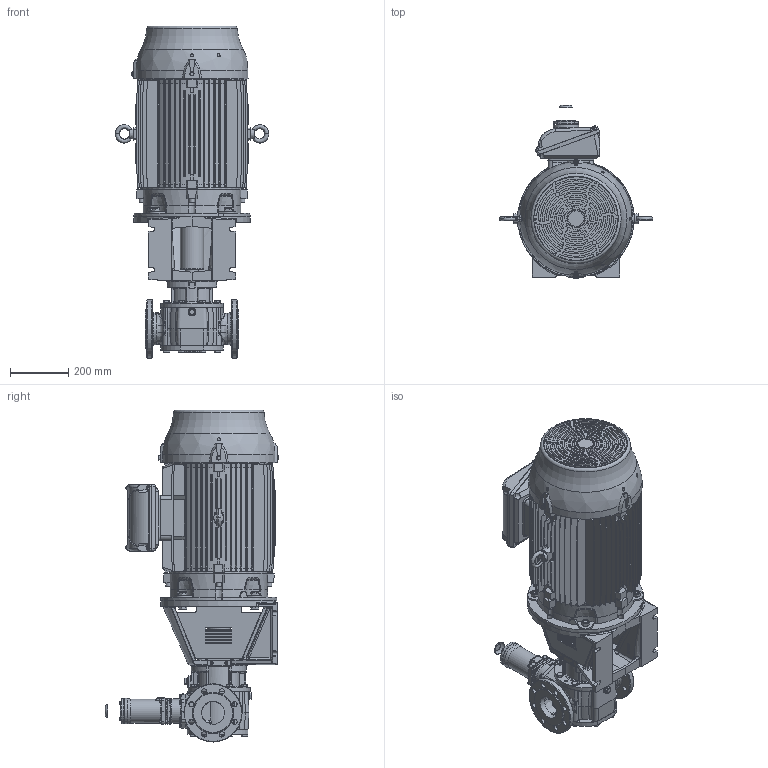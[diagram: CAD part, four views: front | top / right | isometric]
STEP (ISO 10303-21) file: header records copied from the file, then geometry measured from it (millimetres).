
FILE_DESCRIPTION(/* description */ (''),/* implementation_level */ '2;1');
FILE_NAME(/* name */ 'C:\V\JPP\Designs\GEAR PUMPS\PRODUCT ENGINEERING\EUROPE\TG BLOC\TG BLOC_58-80_G2_O_RV1-_200L-STEP.stp',/* time_stamp */ '2021-03-19T10:55:53+01:00',/* author */ ('A77THR'),/* organization */ (''),/* preprocessor_version */ 'ST-DEVELOPER v18.1',/* originating_system */ 'Autodesk Inventor 2020',/* authorisation */ '');
FILE_SCHEMA (('AUTOMOTIVE_DESIGN { 1 0 10303 214 3 1 1 }'));
Length unit declared in the file: millimetre
Products named in the file (1): TG BLOC_58-80_G2_O_RV1-_200L
Bounding box: 527.98 x 597.54 x 1141.26 mm (x, y, z)
Volume: 82222104.9 mm3; surface area: 3447734.8 mm2
Topology: 1 solids, 1 shells, 4584 faces, 12149 edges, 7747 vertices
Faces by surface type: plane 1847, cylinder 1150, bspline 856, cone 553, torus 130, sphere 48
Full cylindrical faces by diameter (mm): 4 x1, 4.5 x4, 4.917 x4, 5.459 x4, 6 x4, 6.3 x1, 6.647 x1, 6.8 x2, 7 x4, 7.323 x12, 7.444 x3, 8 x11, 8.7 x4, 9 x12, 10 x8, 10.106 x7, 10.2 x2, 11.053 x4, 11.4 x12, 11.445 x2, 11.6 x3, 12 x4, 13 x1, 13.157 x2, 13.2 x2, 14 x8, 15.011 x2, 17.2 x20, 18 x23, 19 x6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
Entity records: 193229 total; most frequent: CARTESIAN_POINT 81371, ORIENTED_EDGE 24122, DIRECTION 20701, EDGE_CURVE 12061, AXIS2_PLACEMENT_3D 8014, VERTEX_POINT 7743, EDGE_LOOP 4992, LINE 4673
